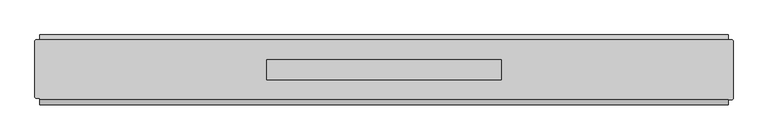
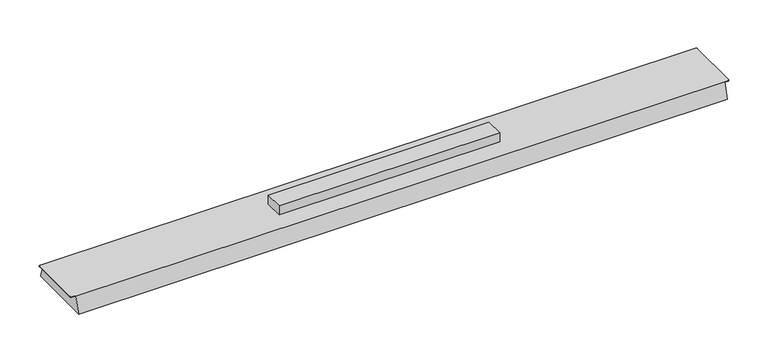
"""IFC4 building model written with IfcOpenShell, lengths in millimetres: light fixture geometry, GENILED_Светильник светодиодный_Retail Standart : Retail Standart 1034x105x25 40Вт Опал."""

from ifc_helpers import new_model, si_unit, frame, origin, place, context, project, spatial, circle_curve, source, transform, mapped, element, save
from ifc_brep_helpers import plane_surface, cylinder_surface, advanced_brep


def light_fixture_6470af7a(model_context):
    return source(origin(), model_context, "Body", "AdvancedBrep", [
        advanced_brep(
        [(517.0, 45.0, 25.0), (-517.0, 45.0, 25.0), (-522.0, 45.0, 25.0), (-524.0, 43.0, 25.0), (-524.0, -40.5, 25.0), (-522.0, -42.5, 25.0), (-517.0, -42.5, 25.0), (-517.0, -45.0, 25.0), (517.0, -45.0, 25.0), (522.0, -45.0, 25.0), (524.0, -43.0, 25.0), (524.0, 43.0, 25.0), (522.0, 45.0, 25.0), (-176.0, 15.0, 25.0), (176.0, 15.0, 25.0), (176.0, -15.0, 25.0), (-176.0, -15.0, 25.0), (517.0, 52.5, 0.0), (517.0, -52.5, 0.0), (-517.0, -52.5, 0.0), (-517.0, 52.5, 0.0), (-517.0, -42.5, 24.0), (-517.0, 45.0, 24.0), (517.0, 45.0, 24.0), (517.0, -45.0, 24.0), (176.0, 15.0, 40.0), (-176.0, 15.0, 40.0), (-176.0, -15.0, 40.0), (176.0, -15.0, 40.0), (522.0, 45.0, 24.0), (524.0, 43.0, 24.0), (524.0, -43.0, 24.0), (522.0, -45.0, 24.0), (-522.0, -42.5, 24.0), (-524.0, -40.5, 24.0), (-524.0, 43.0, 24.0), (-522.0, 45.0, 24.0)],
        [
            (0, 1),
            (1, 2),
            (2, 3, circle_curve(frame((-522.0, 43.0, 25.0), z_axis=(0.0, 0.0, 1.0), x_axis=(1.0, 0.0, 0.0)), 2.0)),
            (3, 4),
            (4, 5, circle_curve(frame((-522.0, -40.5, 25.0), z_axis=(0.0, 0.0, 1.0), x_axis=(1.0, 0.0, 0.0)), 2.0)),
            (5, 6),
            (6, 7),
            (7, 8),
            (8, 9),
            (9, 10, circle_curve(frame((522.0, -43.0, 25.0), z_axis=(0.0, 0.0, 1.0), x_axis=(1.0, 0.0, 0.0)), 2.0)),
            (10, 11),
            (11, 12, circle_curve(frame((522.0, 43.0, 25.0), z_axis=(0.0, 0.0, 1.0), x_axis=(1.0, 0.0, 0.0)), 2.0)),
            (12, 0),
            (13, 14),
            (14, 15),
            (15, 16),
            (16, 13),
            (17, 18),
            (18, 19),
            (19, 20),
            (20, 17),
            (0, 17),
            (20, 1),
            (19, 7),
            (6, 21),
            (21, 22),
            (22, 1),
            (18, 8),
            (0, 23),
            (23, 24),
            (24, 8),
            (25, 26),
            (26, 27),
            (27, 28),
            (28, 25),
            (25, 14),
            (13, 26),
            (16, 27),
            (15, 28),
            (29, 30, circle_curve(frame((522.0, 43.0, 24.0), z_axis=(0.0, 0.0, -1.0), x_axis=(1.0, 0.0, 0.0)), 2.0)),
            (30, 31),
            (31, 32, circle_curve(frame((522.0, -43.0, 24.0), z_axis=(0.0, 0.0, -1.0), x_axis=(1.0, 0.0, 0.0)), 2.0)),
            (32, 24),
            (23, 29),
            (12, 29),
            (32, 9),
            (31, 10),
            (30, 11),
            (21, 33),
            (33, 34, circle_curve(frame((-522.0, -40.5, 24.0), z_axis=(0.0, 0.0, -1.0), x_axis=(1.0, 0.0, 0.0)), 2.0)),
            (34, 35),
            (35, 36, circle_curve(frame((-522.0, 43.0, 24.0), z_axis=(0.0, 0.0, -1.0), x_axis=(1.0, 0.0, 0.0)), 2.0)),
            (36, 22),
            (36, 2),
            (35, 3),
            (34, 4),
            (33, 5),
        ],
        [
            plane_surface(frame((0.0, 0.0, 25.0), z_axis=(0.0, 0.0, 1.0), x_axis=(-1.0, 0.0, 0.0))),
            plane_surface(frame((0.0, 0.0, 0.0), z_axis=(0.0, 0.0, -1.0), x_axis=(-1.0, 0.0, 0.0))),
            plane_surface(frame((0.0, 52.5, 0.0), z_axis=(0.0, 0.9578262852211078, 0.28734788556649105), x_axis=(-1.0, 0.0, 0.0))),
            plane_surface(frame((-517.0, 0.0, 0.0), z_axis=(-1.0, 0.0, 0.0), x_axis=(0.0, -1.0, 0.0))),
            plane_surface(frame((0.0, -52.5, 0.0), z_axis=(0.0, -0.9578262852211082, 0.28734788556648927), x_axis=(1.0, 0.0, 0.0))),
            plane_surface(frame((517.0, 0.0, 0.0), z_axis=(1.0, 0.0, 0.0), x_axis=(0.0, 1.0, 0.0))),
            plane_surface(frame((-176.0, 15.0, 40.0), z_axis=(0.0, 0.0, 1.0), x_axis=(-1.0, 0.0, 0.0))),
            plane_surface(frame((176.0, 15.0, 40.0), z_axis=(0.0, 1.0, 0.0), x_axis=(0.0, 0.0, -1.0))),
            plane_surface(frame((-176.0, 15.0, 40.0), z_axis=(-1.0, 0.0, 0.0), x_axis=(0.0, 0.0, -1.0))),
            plane_surface(frame((-176.0, -15.0, 40.0), z_axis=(0.0, -1.0, 0.0), x_axis=(0.0, 0.0, -1.0))),
            plane_surface(frame((176.0, -15.0, 40.0), z_axis=(1.0, 0.0, 0.0), x_axis=(0.0, 0.0, -1.0))),
            plane_surface(frame((517.0, 45.0, 24.0), z_axis=(0.0, 0.0, -1.0), x_axis=(1.0, 0.0, 0.0))),
            plane_surface(frame((522.0, 45.0, 25.0), z_axis=(0.0, 1.0, 0.0), x_axis=(0.0, 0.0, -1.0))),
            plane_surface(frame((517.0, -45.0, 25.0), z_axis=(0.0, -1.0, 0.0), x_axis=(0.0, 0.0, -1.0))),
            cylinder_surface(frame((522.0, -43.0, 24.0), z_axis=(0.0, 0.0, 1.0), x_axis=(1.0, 0.0, 0.0)), 2.0),
            plane_surface(frame((524.0, -43.0, 25.0), z_axis=(1.0, 0.0, 0.0), x_axis=(0.0, 0.0, -1.0))),
            cylinder_surface(frame((522.0, 43.0, 24.0), z_axis=(0.0, 0.0, 1.0), x_axis=(1.0, 0.0, 0.0)), 2.0),
            plane_surface(frame((-522.0, 45.0, 24.0), z_axis=(0.0, 0.0, -1.0), x_axis=(1.0, 0.0, 0.0))),
            plane_surface(frame((-517.0, 45.0, 25.0), z_axis=(0.0, 1.0, 0.0), x_axis=(0.0, 0.0, -1.0))),
            cylinder_surface(frame((-522.0, 43.0, 24.0), z_axis=(0.0, 0.0, 1.0), x_axis=(1.0, 0.0, 0.0)), 2.0),
            plane_surface(frame((-524.0, 43.0, 25.0), z_axis=(-1.0, 0.0, 0.0), x_axis=(0.0, 0.0, -1.0))),
            cylinder_surface(frame((-522.0, -40.5, 24.0), z_axis=(0.0, 0.0, 1.0), x_axis=(1.0, 0.0, 0.0)), 2.0),
            plane_surface(frame((-522.0, -42.5, 25.0), z_axis=(0.0, -1.0, 0.0), x_axis=(0.0, 0.0, -1.0))),
        ],
        [
            (0, [[1, 2, 3, 4, 5, 6, 7, 8, 9, 10, 11, 12, 13], [14, 15, 16, 17]]),
            (1, [[18, 19, 20, 21]]),
            (2, [[-1, 22, -21, 23]]),
            (3, [[-20, 24, -7, 25, 26, 27, -23]]),
            (4, [[-8, -24, -19, 28]]),
            (5, [[-18, -22, 29, 30, 31, -28]]),
            (6, [[32, 33, 34, 35]]),
            (7, [[-32, 36, -14, 37]]),
            (8, [[-33, -37, -17, 38]]),
            (9, [[-34, -38, -16, 39]]),
            (10, [[-35, -39, -15, -36]]),
            (11, [[40, 41, 42, 43, -30, 44]]),
            (12, [[-13, 45, -44, -29]]),
            (13, [[-9, -31, -43, 46]]),
            (14, [[-10, -46, -42, 47]]),
            (15, [[-11, -47, -41, 48]]),
            (16, [[-12, -48, -40, -45]]),
            (17, [[49, 50, 51, 52, 53, -26]]),
            (18, [[-2, -27, -53, 54]]),
            (19, [[-3, -54, -52, 55]]),
            (20, [[-4, -55, -51, 56]]),
            (21, [[-5, -56, -50, 57]]),
            (22, [[-6, -57, -49, -25]]),
        ],
    ),
    ])


if __name__ == "__main__":
    model = new_model("IFC4")
    model_context = context("Model", 3, world=origin())
    ifc_project = project(units=[si_unit("LENGTHUNIT", "METRE", prefix="MILLI")], contexts=[model_context])
    site = spatial("IfcSite", under=ifc_project)
    building = spatial("IfcBuilding", under=site)
    placement = place(None, origin())
    light_fixture_shape = light_fixture_6470af7a(model_context)
    element("IfcLightFixture", 1, ObjectType="GENILED_Светильник светодиодный_Retail Standart : Retail Standart 1034x105x25 40Вт Опал", at=placement, inside=building, context=model_context, shape_type="MappedRepresentation", body=[
        mapped(light_fixture_shape, transform((0.0, 0.0, 0.0), x_axis=(1.0, 0.0, 0.0), y_axis=(0.0, 1.0, 0.0), z_axis=(0.0, 0.0, 1.0))),
    ])
    save(model, "model.ifc")
